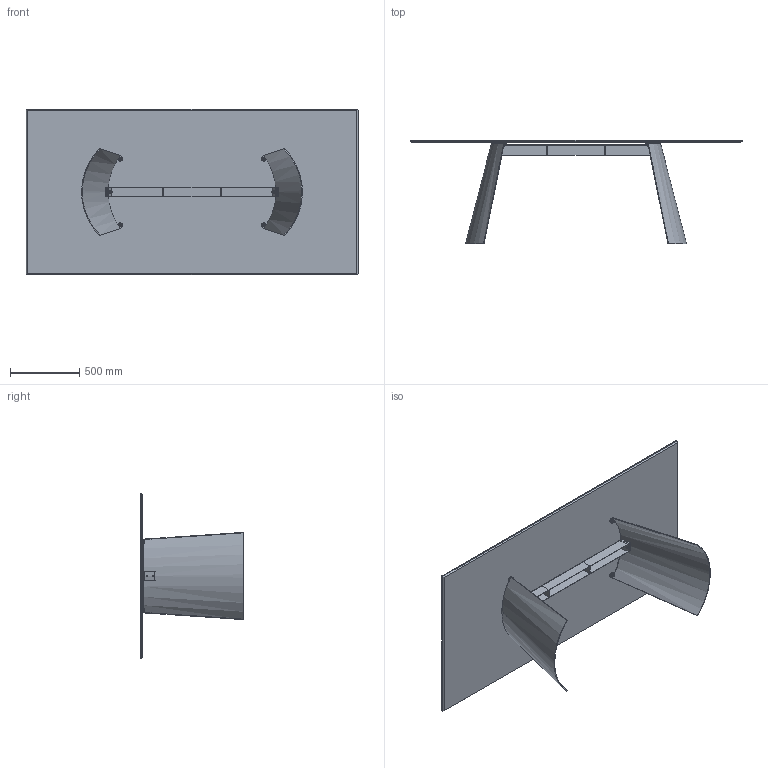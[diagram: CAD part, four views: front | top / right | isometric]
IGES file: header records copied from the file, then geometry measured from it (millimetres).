
Start section: SolidWorks IGES file using analytic representation for surfaces
Global section: file name: Y:\eforma\TECNICO\SOLIDWORKS\E-FORMA\1-TAVOLI\DORIAN\02 parts-rev 01\DN22C.IGS; native system: SolidWorks 2022; preprocessor: SolidWorks 2022; author: eforma.tech; date: 240807.170918; units: millimetre
Bounding box: 2390 x 746 x 1190 mm (x, y, z)
Volume: 51030797.8 mm3; surface area: 14001254.4 mm2
Topology: 47 solids, 47 shells, 596 faces, 1378 edges, 876 vertices
Faces by surface type: revolution 316, plane 262, bspline 18
